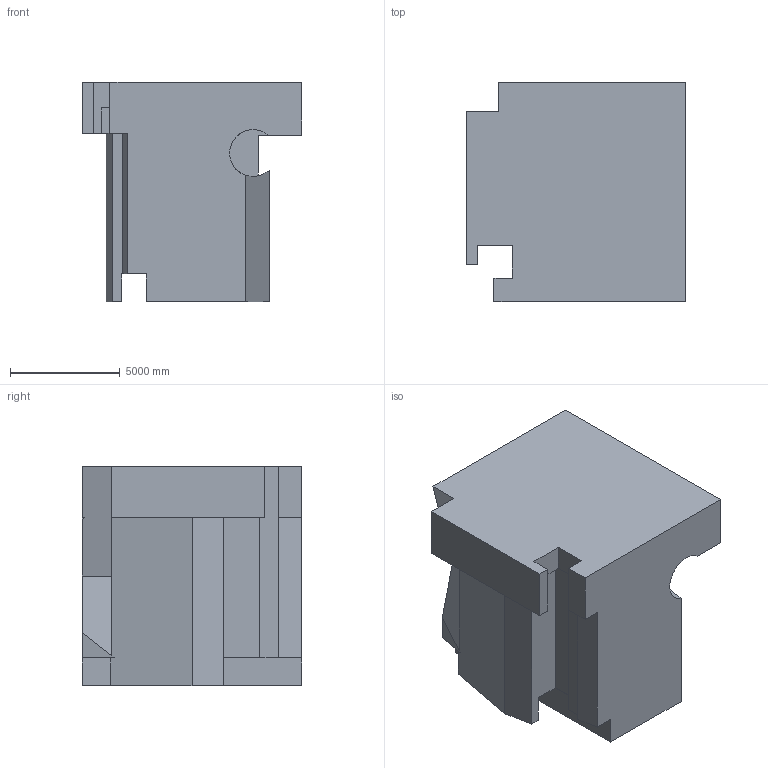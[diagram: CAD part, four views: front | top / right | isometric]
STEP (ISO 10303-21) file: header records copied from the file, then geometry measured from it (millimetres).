
FILE_DESCRIPTION (( 'STEP AP203' ), '1' );
FILE_NAME ('873.STEP', '2022-08-04T16:05:35', ( 'user' ), ( '' ), 'SwSTEP 2.0', 'SolidWorks 2021', '' );
FILE_SCHEMA (( 'CONFIG_CONTROL_DESIGN' ));
Length unit declared in the file: centimetre
Products named in the file (1): 873
Bounding box: 10000 x 10000 x 10000 mm (x, y, z)
Volume: 629224492786 mm3; surface area: 649510146 mm2
Topology: 1 solids, 1 shells, 46 faces, 126 edges, 84 vertices
Faces by surface type: plane 39, cylinder 7
Entity records: 1520 total; most frequent: CARTESIAN_POINT 272, ORIENTED_EDGE 252, DIRECTION 228, EDGE_CURVE 126, LINE 108, VECTOR 108, VERTEX_POINT 84, AXIS2_PLACEMENT_3D 60
